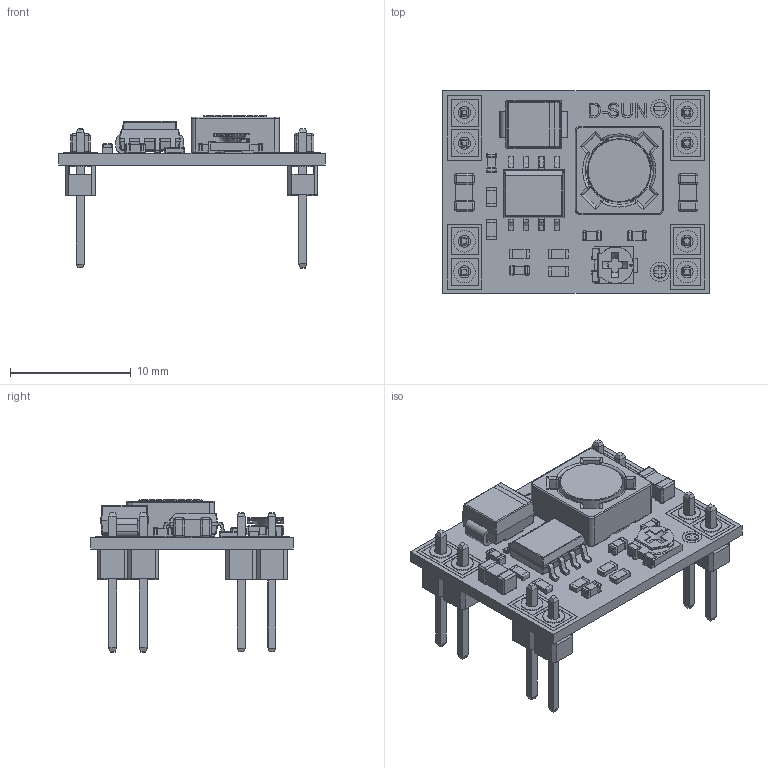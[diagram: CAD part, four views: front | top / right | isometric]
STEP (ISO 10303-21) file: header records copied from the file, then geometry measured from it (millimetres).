
FILE_DESCRIPTION(/* description */ ('FreeCAD Model'),/* implementation_level */ '2;1');
FILE_NAME(/* name */ 'MP1584EN_pin.step',/* time_stamp */ '2026-10-08T23:38:12+07:00',/* author */ (''),/* organization */ (''),/* preprocessor_version */ 'ST-DEVELOPER v20.2',/* originating_system */ 'Autodesk Translation Framework v15.15.0.0',/* authorisation */ '');
FILE_SCHEMA (('AUTOMOTIVE_DESIGN { 1 0 10303 214 3 1 1 }'));
Products named in the file (7): ASSEMBLY; main001; silk-TOP; pins; comp-top; silk-bot; 2026-10-08-16-22-17-255
Assembly tree (9 placements, depth 2):
  ASSEMBLY
    main001
    silk-TOP
    pins
    comp-top
    silk-bot
    2026-10-08-16-22-17-255  x4
Bounding box: 22.1 x 16.8 x 12.6 mm (x, y, z)
Volume: 732.8 mm3; surface area: 2134.6 mm2
Topology: 56 solids, 56 shells, 1787 faces, 4351 edges, 2592 vertices
Faces by surface type: plane 917, cylinder 418, bspline 268, sphere 159, torus 22, cone 3
Full cylindrical faces by diameter (mm): 1 x8, 1.07 x2, 1.53 x1, 1.603 x1, 1.8 x16, 5.25 x1
Entity records: 54835 total; most frequent: CARTESIAN_POINT 17996, ORIENTED_EDGE 7544, DIRECTION 6911, EDGE_CURVE 3772, AXIS2_PLACEMENT_3D 2345, VERTEX_POINT 2292, LINE 2221, VECTOR 2221
